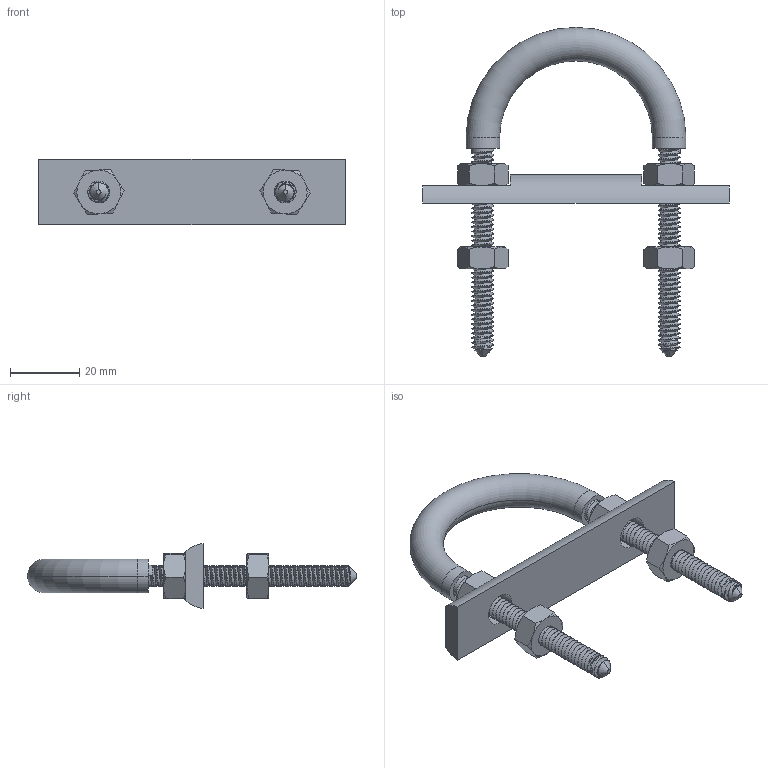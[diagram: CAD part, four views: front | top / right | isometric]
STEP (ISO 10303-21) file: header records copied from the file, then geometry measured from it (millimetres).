
FILE_DESCRIPTION (( 'STEP AP214' ), '1' );
FILE_NAME ('NUB1461.STEP', '2022-04-04T15:51:51', ( '' ), ( '' ), 'SwSTEP 2.0', 'SolidWorks 2021', '' );
FILE_SCHEMA (( 'AUTOMOTIVE_DESIGN' ));
Length unit declared in the file: inch
Products named in the file (4): NUB1461; ROD0635_IRX5-1_XL [ROD0635]; FAS0044; UBT0988_UBT5X-1-0.25-20 [NUB1461]
Assembly tree (6 placements, depth 2):
  NUB1461
    FAS0044  x4
    UBT0988_UBT5X-1-0.25-20 [NUB1461]
    ROD0635_IRX5-1_XL [ROD0635]
Bounding box: 88.9 x 95.35 x 18.88 mm (x, y, z)
Volume: 20917.7 mm3; surface area: 17107.6 mm2
Topology: 7 solids, 7 shells, 328 faces, 870 edges, 556 vertices
Faces by surface type: cylinder 203, cone 70, plane 45, torus 6, bspline 4
Entity records: 17107 total; most frequent: CARTESIAN_POINT 11525, ORIENTED_EDGE 1356, DIRECTION 866, EDGE_CURVE 678, VERTEX_POINT 442, AXIS2_PLACEMENT_3D 321, EDGE_LOOP 252, ADVANCED_FACE 244
